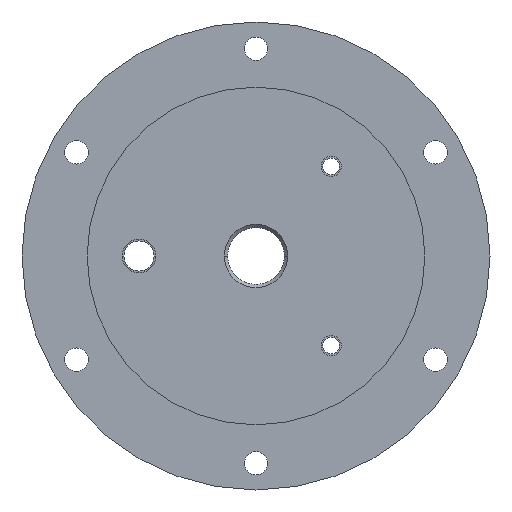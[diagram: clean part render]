
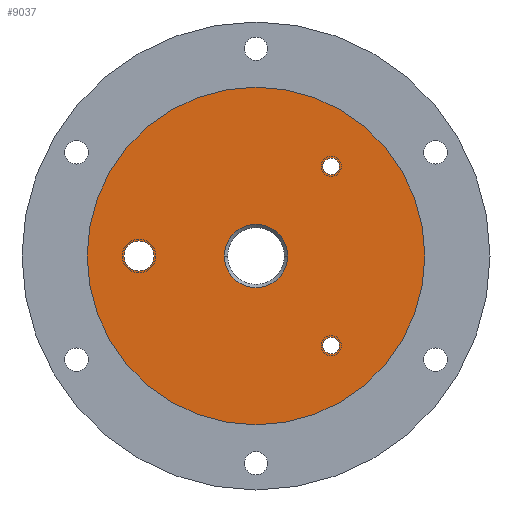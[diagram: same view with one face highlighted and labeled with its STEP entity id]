
A CAD part, left-side view. The second image highlights one B-rep face of the part: STEP entity #9037.
In plain terms, the highlighted planar face has unit normal (-1, 0, 0).
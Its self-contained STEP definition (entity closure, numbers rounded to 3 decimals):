
#2846=CARTESIAN_POINT('',(0.,0.,0.));
#2847=DIRECTION('',(-1.,0.,0.));
#2848=DIRECTION('',(0.,1.,0.));
#2849=AXIS2_PLACEMENT_3D('',#2846,#2847,#2848);
#2851=CARTESIAN_POINT('',(0.,0.,0.));
#2852=DIRECTION('',(1.,0.,0.));
#2853=DIRECTION('',(0.,1.,0.));
#2854=AXIS2_PLACEMENT_3D('',#2851,#2852,#2853);
#2856=CARTESIAN_POINT('',(0.,35.,0.));
#2857=DIRECTION('',(1.,0.,0.));
#2858=DIRECTION('',(0.,-1.,0.));
#2859=AXIS2_PLACEMENT_3D('',#2856,#2857,#2858);
#2861=CARTESIAN_POINT('',(0.,35.,0.));
#2862=DIRECTION('',(1.,0.,0.));
#2863=DIRECTION('',(0.,1.,0.));
#2864=AXIS2_PLACEMENT_3D('',#2861,#2862,#2863);
#2866=CARTESIAN_POINT('',(0.,-22.498,26.812));
#2867=DIRECTION('',(1.,0.,0.));
#2868=DIRECTION('',(0.,-1.,0.));
#2869=AXIS2_PLACEMENT_3D('',#2866,#2867,#2868);
#2871=CARTESIAN_POINT('',(0.,-22.498,26.812));
#2872=DIRECTION('',(1.,0.,0.));
#2873=DIRECTION('',(0.,1.,0.));
#2874=AXIS2_PLACEMENT_3D('',#2871,#2872,#2873);
#2876=CARTESIAN_POINT('',(0.,-22.498,-26.812));
#2877=DIRECTION('',(1.,0.,0.));
#2878=DIRECTION('',(0.,0.174,-0.985));
#2879=AXIS2_PLACEMENT_3D('',#2876,#2877,#2878);
#2881=CARTESIAN_POINT('',(0.,-22.498,-26.812));
#2882=DIRECTION('',(1.,0.,0.));
#2883=DIRECTION('',(0.,-0.174,0.985));
#2884=AXIS2_PLACEMENT_3D('',#2881,#2882,#2883);
#2886=CARTESIAN_POINT('',(0.,0.,0.));
#2887=DIRECTION('',(-1.,0.,0.));
#2888=DIRECTION('',(0.,-1.,0.));
#2889=AXIS2_PLACEMENT_3D('',#2886,#2887,#2888);
#2891=CARTESIAN_POINT('',(0.,0.,0.));
#2892=DIRECTION('',(-1.,0.,0.));
#2893=DIRECTION('',(0.,1.,0.));
#2894=AXIS2_PLACEMENT_3D('',#2891,#2892,#2893);
#3253=CARTESIAN_POINT('',(0.,50.5,0.));
#3255=VERTEX_POINT('',#3253);
#3257=CARTESIAN_POINT('',(0.,-50.5,0.));
#3259=VERTEX_POINT('',#3257);
#3280=CARTESIAN_POINT('',(0.,30.5,0.));
#3281=CARTESIAN_POINT('',(0.,39.5,0.));
#3282=VERTEX_POINT('',#3280);
#3283=VERTEX_POINT('',#3281);
#3288=CARTESIAN_POINT('',(0.,-24.998,26.812));
#3289=CARTESIAN_POINT('',(0.,-19.998,26.812));
#3290=VERTEX_POINT('',#3288);
#3291=VERTEX_POINT('',#3289);
#3296=CARTESIAN_POINT('',(0.,-22.063,-29.274));
#3297=CARTESIAN_POINT('',(0.,-22.932,-24.35));
#3298=VERTEX_POINT('',#3296);
#3299=VERTEX_POINT('',#3297);
#3660=CARTESIAN_POINT('',(0.,-9.5,0.));
#3661=CARTESIAN_POINT('',(0.,9.5,0.));
#3662=VERTEX_POINT('',#3660);
#3663=VERTEX_POINT('',#3661);
#9005=CARTESIAN_POINT('',(0.,0.,0.));
#9006=DIRECTION('',(1.,0.,0.));
#9007=DIRECTION('',(0.,-1.,0.));
#9008=AXIS2_PLACEMENT_3D('',#9005,#9006,#9007);
#9009=PLANE('',#9008);
#9011=ORIENTED_EDGE('',*,*,#9010,.F.);
#9013=ORIENTED_EDGE('',*,*,#9012,.T.);
#9014=EDGE_LOOP('',(#9011,#9013));
#9015=FACE_OUTER_BOUND('',#9014,.F.);
#9016=ORIENTED_EDGE('',*,*,#8995,.F.);
#9018=ORIENTED_EDGE('',*,*,#9017,.F.);
#9019=EDGE_LOOP('',(#9016,#9018));
#9020=FACE_BOUND('',#9019,.F.);
#9022=ORIENTED_EDGE('',*,*,#9021,.F.);
#9024=ORIENTED_EDGE('',*,*,#9023,.F.);
#9025=EDGE_LOOP('',(#9022,#9024));
#9026=FACE_BOUND('',#9025,.F.);
#9028=ORIENTED_EDGE('',*,*,#9027,.F.);
#9030=ORIENTED_EDGE('',*,*,#9029,.F.);
#9031=EDGE_LOOP('',(#9028,#9030));
#9032=FACE_BOUND('',#9031,.F.);
#9033=ORIENTED_EDGE('',*,*,#3736,.T.);
#9034=ORIENTED_EDGE('',*,*,#3751,.T.);
#9035=EDGE_LOOP('',(#9033,#9034));
#9036=FACE_BOUND('',#9035,.F.);
#9037=ADVANCED_FACE('',(#9015,#9020,#9026,#9032,#9036),#9009,.F.);
#2850=CIRCLE('',#2849,50.5);
#2855=CIRCLE('',#2854,50.5);
#2860=CIRCLE('',#2859,4.5);
#2865=CIRCLE('',#2864,4.5);
#2870=CIRCLE('',#2869,2.5);
#2875=CIRCLE('',#2874,2.5);
#2880=CIRCLE('',#2879,2.5);
#2885=CIRCLE('',#2884,2.5);
#2890=CIRCLE('',#2889,9.5);
#2895=CIRCLE('',#2894,9.5);
#3736=EDGE_CURVE('',#3662,#3663,#2890,.T.);
#3751=EDGE_CURVE('',#3663,#3662,#2895,.T.);
#8995=EDGE_CURVE('',#3282,#3283,#2860,.T.);
#9010=EDGE_CURVE('',#3255,#3259,#2850,.T.);
#9012=EDGE_CURVE('',#3255,#3259,#2855,.T.);
#9017=EDGE_CURVE('',#3283,#3282,#2865,.T.);
#9021=EDGE_CURVE('',#3290,#3291,#2870,.T.);
#9023=EDGE_CURVE('',#3291,#3290,#2875,.T.);
#9027=EDGE_CURVE('',#3298,#3299,#2880,.T.);
#9029=EDGE_CURVE('',#3299,#3298,#2885,.T.);
